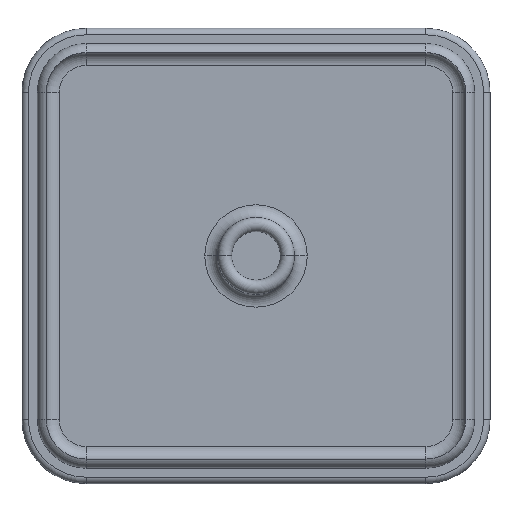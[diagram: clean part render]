
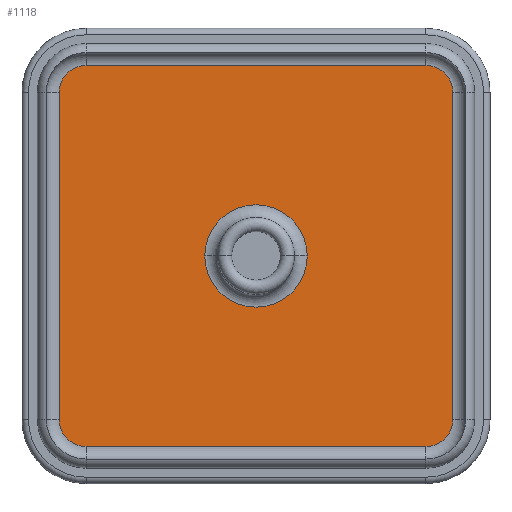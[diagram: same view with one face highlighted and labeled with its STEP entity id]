
A CAD part, top view. The second image highlights one B-rep face of the part: STEP entity #1118.
In plain terms, the highlighted planar face has unit normal (0, 0, 1).
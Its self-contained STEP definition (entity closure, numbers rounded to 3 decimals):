
#329=CARTESIAN_POINT('',(-16.866,16.231,-11.43));
#330=DIRECTION('',(0.,0.,-1.));
#331=DIRECTION('',(-1.,0.,0.));
#332=AXIS2_PLACEMENT_3D('',#329,#330,#331);
#334=DIRECTION('',(1.,0.,0.));
#335=VECTOR('',#334,33.731);
#336=CARTESIAN_POINT('',(-16.866,18.898,-11.43));
#337=LINE('',#336,#335);
#338=CARTESIAN_POINT('',(16.866,16.231,-11.43));
#339=DIRECTION('',(0.,0.,-1.));
#340=DIRECTION('',(0.,1.,0.));
#341=AXIS2_PLACEMENT_3D('',#338,#339,#340);
#343=DIRECTION('',(0.,-1.,0.));
#344=VECTOR('',#343,32.461);
#345=CARTESIAN_POINT('',(19.533,16.231,-11.43));
#346=LINE('',#345,#344);
#347=CARTESIAN_POINT('',(16.866,-16.231,-11.43));
#348=DIRECTION('',(0.,0.,-1.));
#349=DIRECTION('',(1.,0.,0.));
#350=AXIS2_PLACEMENT_3D('',#347,#348,#349);
#352=DIRECTION('',(-1.,0.,0.));
#353=VECTOR('',#352,33.731);
#354=CARTESIAN_POINT('',(16.866,-18.898,-11.43));
#355=LINE('',#354,#353);
#356=CARTESIAN_POINT('',(-16.866,-16.231,-11.43));
#357=DIRECTION('',(0.,0.,-1.));
#358=DIRECTION('',(0.,-1.,0.));
#359=AXIS2_PLACEMENT_3D('',#356,#357,#358);
#361=DIRECTION('',(0.,1.,0.));
#362=VECTOR('',#361,32.461);
#363=CARTESIAN_POINT('',(-19.533,-16.231,-11.43));
#364=LINE('',#363,#362);
#365=CARTESIAN_POINT('',(0.,0.,-11.43));
#366=DIRECTION('',(0.,0.,1.));
#367=DIRECTION('',(-1.,0.,0.));
#368=AXIS2_PLACEMENT_3D('',#365,#366,#367);
#370=CARTESIAN_POINT('',(0.,0.,-11.43));
#371=DIRECTION('',(0.,0.,1.));
#372=DIRECTION('',(1.,0.,0.));
#373=AXIS2_PLACEMENT_3D('',#370,#371,#372);
#759=CARTESIAN_POINT('',(-19.533,16.231,-11.43));
#760=CARTESIAN_POINT('',(-16.866,18.898,-11.43));
#761=VERTEX_POINT('',#759);
#762=VERTEX_POINT('',#760);
#767=CARTESIAN_POINT('',(16.866,18.898,-11.43));
#768=VERTEX_POINT('',#767);
#771=CARTESIAN_POINT('',(19.533,16.231,-11.43));
#772=VERTEX_POINT('',#771);
#775=CARTESIAN_POINT('',(19.533,-16.231,-11.43));
#776=VERTEX_POINT('',#775);
#779=CARTESIAN_POINT('',(16.866,-18.898,-11.43));
#780=VERTEX_POINT('',#779);
#783=CARTESIAN_POINT('',(-16.866,-18.898,-11.43));
#784=VERTEX_POINT('',#783);
#787=CARTESIAN_POINT('',(-19.533,-16.231,-11.43));
#788=VERTEX_POINT('',#787);
#791=CARTESIAN_POINT('',(-5.08,0.,-11.43));
#792=CARTESIAN_POINT('',(5.08,0.,-11.43));
#793=VERTEX_POINT('',#791);
#794=VERTEX_POINT('',#792);
#1089=CARTESIAN_POINT('',(0.,0.,-11.43));
#1090=DIRECTION('',(0.,0.,1.));
#1091=DIRECTION('',(0.,-1.,0.));
#1092=AXIS2_PLACEMENT_3D('',#1089,#1090,#1091);
#1093=PLANE('',#1092);
#1095=ORIENTED_EDGE('',*,*,#1094,.T.);
#1097=ORIENTED_EDGE('',*,*,#1096,.T.);
#1099=ORIENTED_EDGE('',*,*,#1098,.T.);
#1101=ORIENTED_EDGE('',*,*,#1100,.T.);
#1103=ORIENTED_EDGE('',*,*,#1102,.T.);
#1105=ORIENTED_EDGE('',*,*,#1104,.T.);
#1107=ORIENTED_EDGE('',*,*,#1106,.T.);
#1109=ORIENTED_EDGE('',*,*,#1108,.T.);
#1110=EDGE_LOOP('',(#1095,#1097,#1099,#1101,#1103,#1105,#1107,#1109));
#1111=FACE_OUTER_BOUND('',#1110,.F.);
#1113=ORIENTED_EDGE('',*,*,#1112,.T.);
#1115=ORIENTED_EDGE('',*,*,#1114,.T.);
#1116=EDGE_LOOP('',(#1113,#1115));
#1117=FACE_BOUND('',#1116,.F.);
#1118=ADVANCED_FACE('',(#1111,#1117),#1093,.T.);
#333=CIRCLE('',#332,2.667);
#342=CIRCLE('',#341,2.667);
#351=CIRCLE('',#350,2.667);
#360=CIRCLE('',#359,2.667);
#369=CIRCLE('',#368,5.08);
#374=CIRCLE('',#373,5.08);
#1094=EDGE_CURVE('',#761,#762,#333,.T.);
#1096=EDGE_CURVE('',#762,#768,#337,.T.);
#1098=EDGE_CURVE('',#768,#772,#342,.T.);
#1100=EDGE_CURVE('',#772,#776,#346,.T.);
#1102=EDGE_CURVE('',#776,#780,#351,.T.);
#1104=EDGE_CURVE('',#780,#784,#355,.T.);
#1106=EDGE_CURVE('',#784,#788,#360,.T.);
#1108=EDGE_CURVE('',#788,#761,#364,.T.);
#1112=EDGE_CURVE('',#793,#794,#369,.T.);
#1114=EDGE_CURVE('',#794,#793,#374,.T.);
